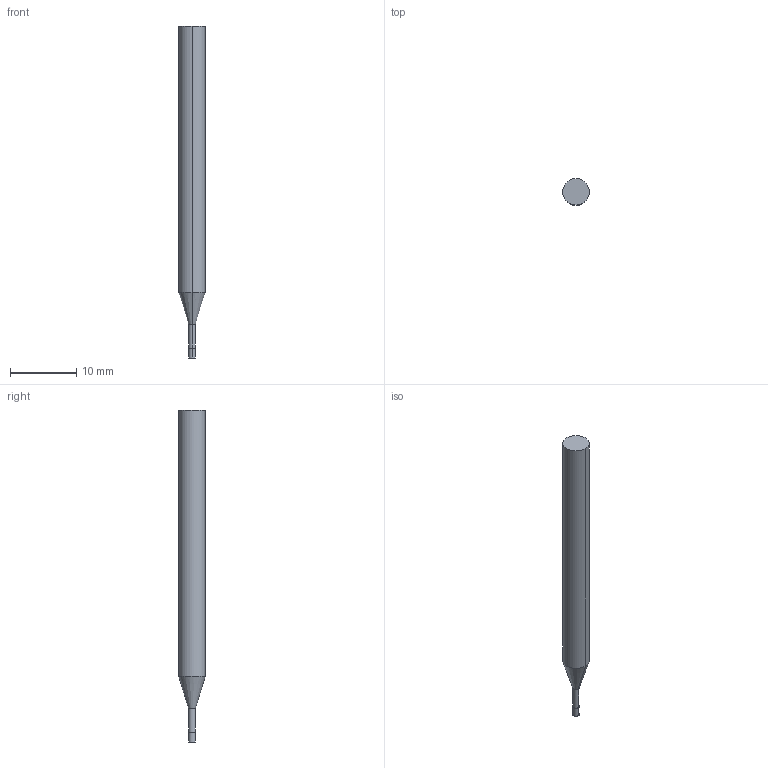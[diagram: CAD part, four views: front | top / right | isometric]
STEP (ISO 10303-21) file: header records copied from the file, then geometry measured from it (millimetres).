
FILE_DESCRIPTION((' '),'2;1');
FILE_NAME( '3MVSM0100N5AH.stp', '2026-01-21T19:27:06', (' '), ('--- Datakit www.datakit.com---'), ' Datakit CrossCadWare V2025.4 Sep 19 2025', 'Mastercam 2027', ' ');
FILE_SCHEMA(('AUTOMOTIVE_DESIGN { 1 0 10303 214 1 1 1 1 }'));
Length unit declared in the file: inch
Products named in the file (1): 3MVSM0100N5AH
Bounding box: 4 x 4 x 50 mm (x, y, z)
Volume: 534.9 mm3; surface area: 573.3 mm2
Topology: 1 solids, 1 shells, 10 faces, 18 edges, 10 vertices
Faces by surface type: cylinder 6, plane 2, cone 2
Entity records: 323 total; most frequent: DIRECTION 58, CARTESIAN_POINT 43, ORIENTED_EDGE 36, AXIS2_PLACEMENT_3D 25, EDGE_CURVE 18, VERTEX_POINT 10, CIRCLE 10, EDGE_LOOP 10
